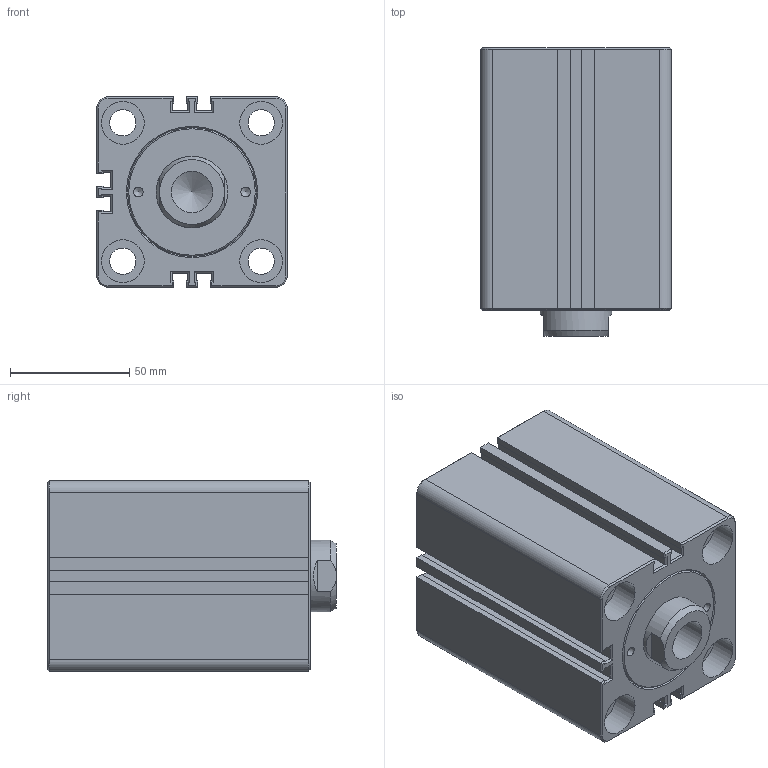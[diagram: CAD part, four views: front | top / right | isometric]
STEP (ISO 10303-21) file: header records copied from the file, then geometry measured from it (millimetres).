
FILE_DESCRIPTION(/* description */ ('Unknown'),/* implementation_level */ '2;1');
FILE_NAME(/* name */ 'HTM70-SDMB50X50N',/* time_stamp */ '2022-08-31T05:45:03+08:00',/* author */ ('Unknown'),/* organization */ ('Unknown'),/* preprocessor_version */ 'ST-DEVELOPER v16.7',/* originating_system */ 'DEX',/* authorisation */ $);
FILE_SCHEMA (('AUTOMOTIVE_DESIGN {1 0 10303 214 3 1 1}'));
Length unit declared in the file: millimetre
Products named in the file (1): HTM70-SDMB50X50N
Bounding box: 80 x 121 x 80 mm (x, y, z)
Volume: 619286.1 mm3; surface area: 78138.1 mm2
Topology: 1 solids, 1 shells, 285 faces, 663 edges, 400 vertices
Faces by surface type: plane 182, cone 40, bspline 36, cylinder 27
Full cylindrical faces by diameter (mm): 4.1 x2, 6 x3, 11 x4, 12 x2, 13 x2, 17.294 x1, 18 x8, 30 x1
Entity records: 9975 total; most frequent: CARTESIAN_POINT 1979, ORIENTED_EDGE 1218, DIRECTION 1116, EDGE_CURVE 609, LINE 402, VECTOR 402, VERTEX_POINT 386, AXIS2_PLACEMENT_3D 357
